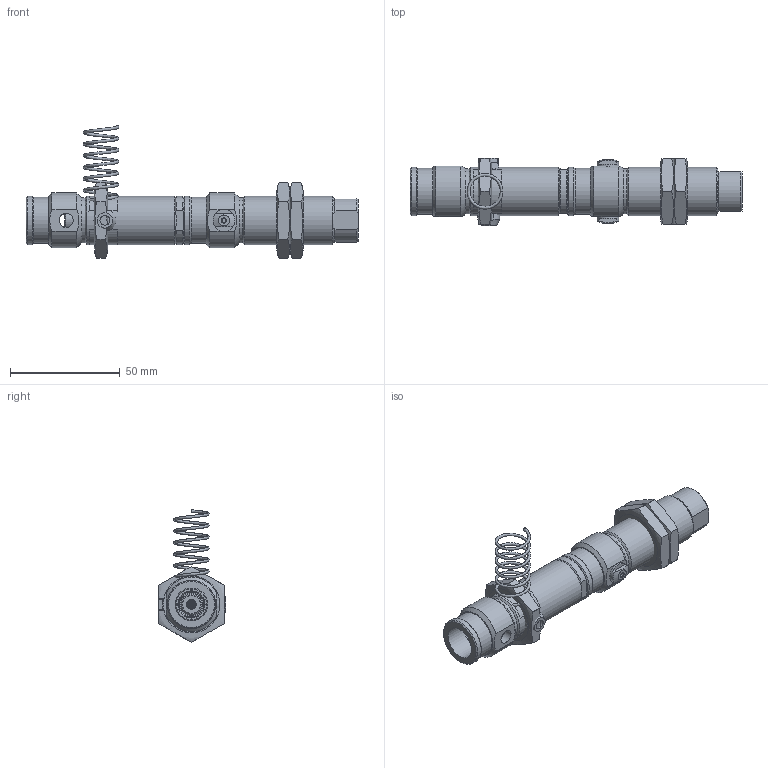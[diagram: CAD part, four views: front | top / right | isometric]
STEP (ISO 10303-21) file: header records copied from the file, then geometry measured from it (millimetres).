
FILE_DESCRIPTION( ( 'Unknown' ), '1' );
FILE_NAME( 'C:/Documents and Settings/owner/官帕 拳搁/VCS 202 (3D)/VCS102C-LM5-07.stp', 'Unknown', ( 'Unknown' ), ( 'Unknown' ), 'XStep 1.0', 'Unknown', ' ' );
FILE_SCHEMA( ( 'automotive_design' ) );
Length unit declared in the file: millimetre
Products named in the file (14): Assem1; Fitting-202-18M; Shaft-202-10; Ring; spring; Slide Housing-202-10; Housing-CS202; Air Fitting-202-18F; NUT-M22XP1.5-SW19; mash; Exhaust Plug-VCS-M7; Non-Return Plug-VCS102; Plug-VCS-M7M5F.log; Plug-M6
Bounding box: 151.34 x 30.7 x 60.5 mm (x, y, z)
Volume: 69605.3 mm3; surface area: 48924.3 mm2
Topology: 28 solids, 28 shells, 2823 faces, 7880 edges, 5188 vertices
Faces by surface type: plane 2285, cylinder 330, cone 169, torus 37, bspline 2
Full cylindrical faces by diameter (mm): 1 x8, 1.8 x3, 2.2 x2, 3.5 x2, 4 x2, 4.134 x2, 4.2 x2, 4.3 x3, 4.459 x2, 5 x4, 5.3 x2, 5.4 x2, 5.459 x2, 5.5 x4, 5.9 x6, 6 x4, 6.1 x3, 6.459 x6, 6.5 x5, 7 x7, 7.5 x2, 7.9 x2, 8 x6, 8.3 x3, 8.566 x2, 8.9 x4, 8.917 x2, 9.1 x2, 9.728 x2, 10 x9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
Entity records: 45969 total; most frequent: CARTESIAN_POINT 9285, ORIENTED_EDGE 7464, DIRECTION 6842, EDGE_CURVE 3732, LINE 3232, VECTOR 3232, VERTEX_POINT 2547, EDGE_LOOP 2138
